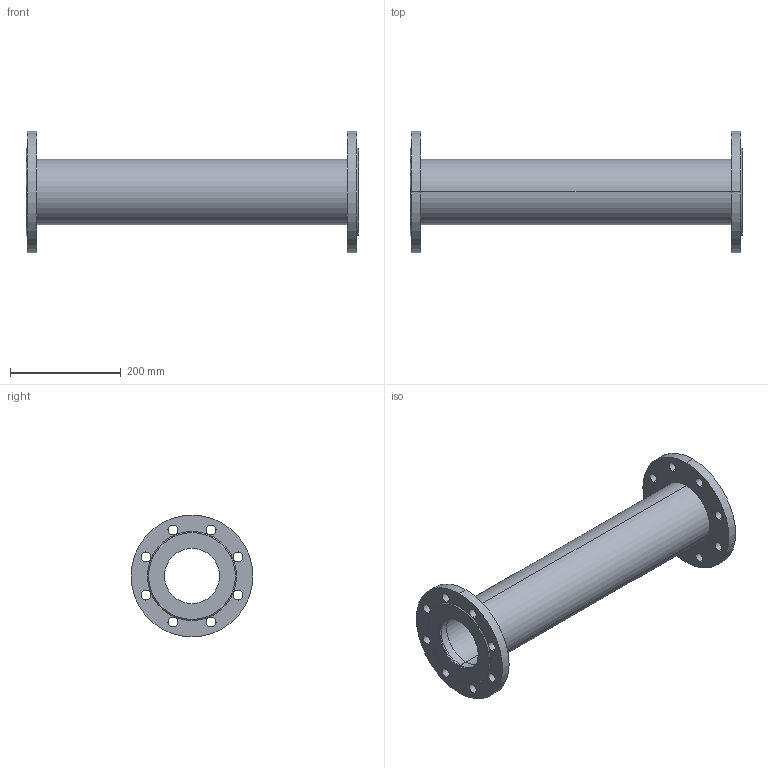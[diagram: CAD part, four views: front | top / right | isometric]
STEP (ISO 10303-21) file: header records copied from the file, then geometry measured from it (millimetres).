
FILE_DESCRIPTION(('STEP AP214'),'1');
FILE_NAME('U:/VDI-Daten/8500/8500_PN16_DN100_L600.STP','2012-06-12T15:03:16',(' '),(' '),'Spatial InterOp 3D',' ',' ');
FILE_SCHEMA(('automotive_design'));
Length unit declared in the file: millimetre
Products named in the file (5): 3D-Objekt
Bounding box: 600 x 220 x 220 mm (x, y, z)
Volume: 2822533.6 mm3; surface area: 624392.9 mm2
Topology: 5 solids, 5 shells, 62 faces, 156 edges, 104 vertices
Faces by surface type: cylinder 48, plane 10, cone 4
Entity records: 2621 total; most frequent: DIRECTION 394, CARTESIAN_POINT 327, ORIENTED_EDGE 312, AXIS2_PLACEMENT_3D 171, EDGE_CURVE 156, EDGE_LOOP 104, VERTEX_POINT 104, CIRCLE 104
